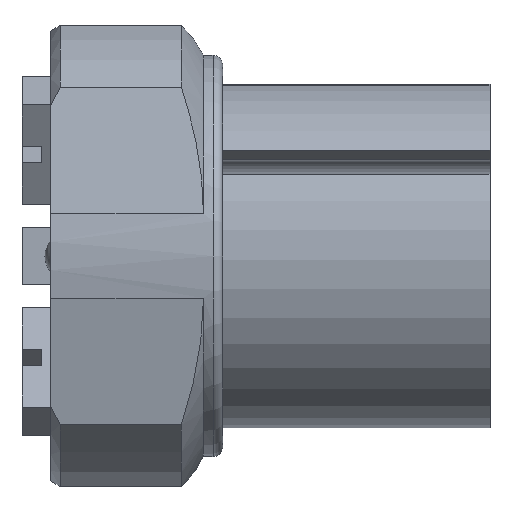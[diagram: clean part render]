
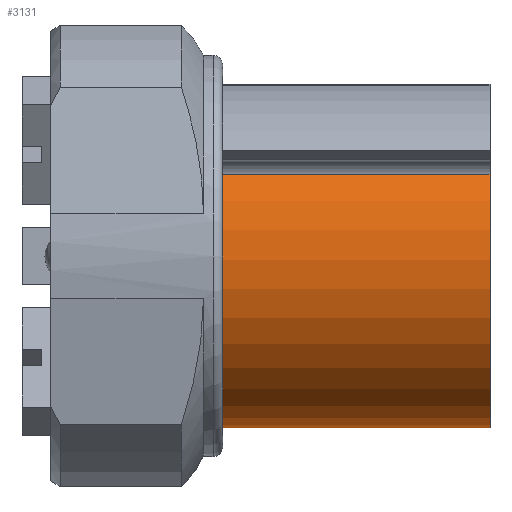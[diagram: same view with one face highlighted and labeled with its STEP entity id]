
A CAD part, front view. The second image highlights one B-rep face of the part: STEP entity #3131.
In plain terms, the highlighted cylindrical face has radius 18 mm (diameter 36 mm), a partial arc.
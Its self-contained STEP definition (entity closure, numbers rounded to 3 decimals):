
#24=CYLINDRICAL_SURFACE('',#3418,18.);
#85=B_SPLINE_CURVE_WITH_KNOTS('',3,(#4842,#4843,#4844,#4845,#4846,#4847,
#4848,#4849,#4850,#4851,#4852,#4853,#4854,#4855,#4856,#4857,#4858,#4859,
#4860),.UNSPECIFIED.,.T.,.F.,(1,1,1,1,1,1,1,1,1,1,1,1,1,1,1,1,1,1,1,1,1,
1,1),(-0.006,-0.004,-0.002,0.,0.002,
0.004,0.006,0.008,0.01,
0.012,0.014,0.016,0.018,0.02,
0.022,0.024,0.026,0.027,0.029,
0.031,0.033,0.035,0.037),
 .UNSPECIFIED.);
#86=B_SPLINE_CURVE_WITH_KNOTS('',3,(#4862,#4863,#4864,#4865,#4866,#4867,
#4868,#4869,#4870,#4871,#4872,#4873,#4874,#4875,#4876,#4877,#4878,#4879,
#4880),.UNSPECIFIED.,.T.,.F.,(1,1,1,1,1,1,1,1,1,1,1,1,1,1,1,1,1,1,1,1,1,
1,1),(-0.006,-0.004,-0.002,0.,0.002,
0.004,0.006,0.008,0.01,0.012,
0.014,0.016,0.018,0.02,0.022,
0.024,0.026,0.027,0.029,0.031,
0.033,0.035,0.037),.UNSPECIFIED.);
#160=LINE('',#4885,#434);
#161=LINE('',#4889,#435);
#434=VECTOR('',#3833,1000.);
#435=VECTOR('',#3836,1000.);
#746=ORIENTED_EDGE('',*,*,#1652,.T.);
#747=ORIENTED_EDGE('',*,*,#1653,.T.);
#748=ORIENTED_EDGE('',*,*,#1654,.F.);
#749=ORIENTED_EDGE('',*,*,#1655,.F.);
#750=ORIENTED_EDGE('',*,*,#1656,.T.);
#751=ORIENTED_EDGE('',*,*,#1657,.T.);
#1652=EDGE_CURVE('',#2102,#2102,#85,.T.);
#1653=EDGE_CURVE('',#2103,#2103,#86,.T.);
#1654=EDGE_CURVE('',#2104,#2105,#2394,.T.);
#1655=EDGE_CURVE('',#2106,#2104,#160,.T.);
#1656=EDGE_CURVE('',#2106,#2107,#2395,.T.);
#1657=EDGE_CURVE('',#2107,#2105,#161,.T.);
#2102=VERTEX_POINT('',#4861);
#2103=VERTEX_POINT('',#4881);
#2104=VERTEX_POINT('',#4883);
#2105=VERTEX_POINT('',#4884);
#2106=VERTEX_POINT('',#4886);
#2107=VERTEX_POINT('',#4888);
#2394=CIRCLE('',#3419,18.);
#2395=CIRCLE('',#3420,18.);
#2531=EDGE_LOOP('',(#746));
#2532=EDGE_LOOP('',(#747));
#2533=EDGE_LOOP('',(#748,#749,#750,#751));
#2778=FACE_BOUND('',#2531,.T.);
#2779=FACE_BOUND('',#2532,.T.);
#2780=FACE_BOUND('',#2533,.T.);
#3131=ADVANCED_FACE('',(#2778,#2779,#2780),#24,.T.);
#3418=AXIS2_PLACEMENT_3D('',#4841,#3829,#3830);
#3419=AXIS2_PLACEMENT_3D('',#4882,#3831,#3832);
#3420=AXIS2_PLACEMENT_3D('',#4887,#3834,#3835);
#3829=DIRECTION('',(1.,0.,0.));
#3830=DIRECTION('',(0.,0.,-1.));
#3831=DIRECTION('',(1.,0.,0.));
#3832=DIRECTION('',(0.,0.,-1.));
#3833=DIRECTION('',(1.,0.,0.));
#3834=DIRECTION('',(1.,0.,0.));
#3835=DIRECTION('',(0.,0.,-1.));
#3836=DIRECTION('',(1.,0.,0.));
#4841=CARTESIAN_POINT('',(-28.,0.,0.));
#4842=CARTESIAN_POINT('',(-5.022,17.943,-1.493));
#4843=CARTESIAN_POINT('',(-7.001,17.967,-1.077));
#4844=CARTESIAN_POINT('',(-8.973,17.943,-1.492));
#4845=CARTESIAN_POINT('',(-10.627,17.826,-2.63));
#4846=CARTESIAN_POINT('',(-11.735,17.518,-4.276));
#4847=CARTESIAN_POINT('',(-12.132,16.951,-6.166));
#4848=CARTESIAN_POINT('',(-11.738,16.17,-7.981));
#4849=CARTESIAN_POINT('',(-10.625,15.345,-9.445));
#4850=CARTESIAN_POINT('',(-8.972,14.704,-10.391));
#4851=CARTESIAN_POINT('',(-7.002,14.456,-10.723));
#4852=CARTESIAN_POINT('',(-5.031,14.703,-10.393));
#4853=CARTESIAN_POINT('',(-3.376,15.344,-9.447));
#4854=CARTESIAN_POINT('',(-2.265,16.167,-7.986));
#4855=CARTESIAN_POINT('',(-1.868,16.95,-6.171));
#4856=CARTESIAN_POINT('',(-2.263,17.517,-4.279));
#4857=CARTESIAN_POINT('',(-3.373,17.826,-2.631));
#4858=CARTESIAN_POINT('',(-5.022,17.943,-1.493));
#4859=CARTESIAN_POINT('',(-7.001,17.967,-1.077));
#4860=CARTESIAN_POINT('',(-8.973,17.943,-1.492));
#4861=CARTESIAN_POINT('',(-7.,17.959,-1.216));
#4862=CARTESIAN_POINT('',(-19.022,14.705,10.39));
#4863=CARTESIAN_POINT('',(-21.001,14.456,10.724));
#4864=CARTESIAN_POINT('',(-22.973,14.704,10.391));
#4865=CARTESIAN_POINT('',(-24.627,15.346,9.444));
#4866=CARTESIAN_POINT('',(-25.735,16.168,7.984));
#4867=CARTESIAN_POINT('',(-26.132,16.949,6.173));
#4868=CARTESIAN_POINT('',(-25.738,17.517,4.28));
#4869=CARTESIAN_POINT('',(-24.625,17.826,2.628));
#4870=CARTESIAN_POINT('',(-22.972,17.943,1.491));
#4871=CARTESIAN_POINT('',(-21.002,17.967,1.078));
#4872=CARTESIAN_POINT('',(-19.031,17.943,1.489));
#4873=CARTESIAN_POINT('',(-17.376,17.826,2.626));
#4874=CARTESIAN_POINT('',(-16.265,17.518,4.275));
#4875=CARTESIAN_POINT('',(-15.868,16.951,6.168));
#4876=CARTESIAN_POINT('',(-16.263,16.169,7.982));
#4877=CARTESIAN_POINT('',(-17.373,15.346,9.443));
#4878=CARTESIAN_POINT('',(-19.022,14.705,10.39));
#4879=CARTESIAN_POINT('',(-21.001,14.456,10.724));
#4880=CARTESIAN_POINT('',(-22.973,14.704,10.391));
#4881=CARTESIAN_POINT('',(-21.,14.539,10.613));
#4882=CARTESIAN_POINT('',(0.,0.,0.));
#4883=CARTESIAN_POINT('',(0.,-15.823,8.582));
#4884=CARTESIAN_POINT('',(0.,0.51,17.993));
#4885=CARTESIAN_POINT('',(-28.,-15.823,8.582));
#4886=CARTESIAN_POINT('',(-28.,-15.823,8.582));
#4887=CARTESIAN_POINT('',(-28.,0.,0.));
#4888=CARTESIAN_POINT('',(-28.,0.51,17.993));
#4889=CARTESIAN_POINT('',(-28.,0.51,17.993));
